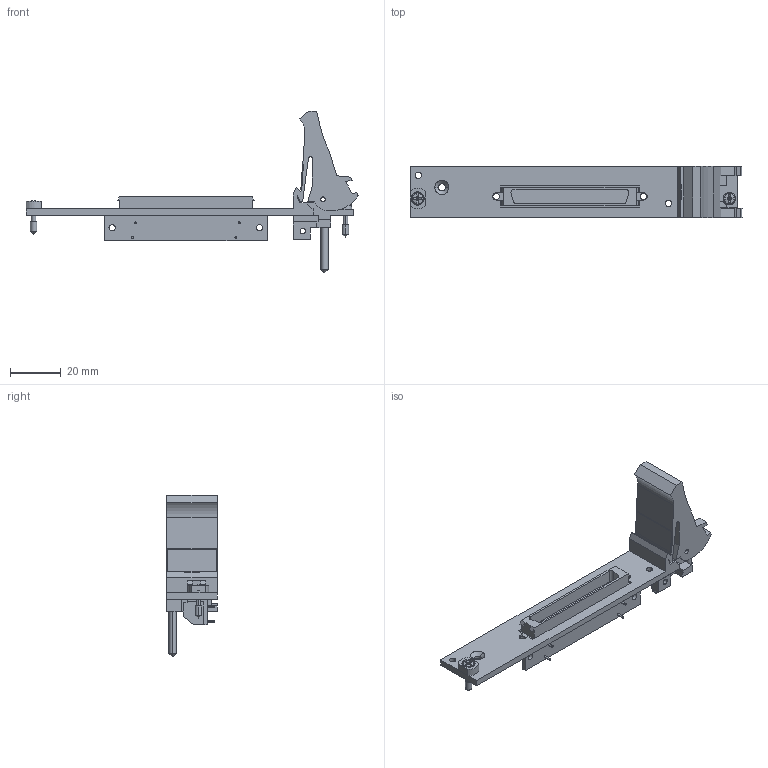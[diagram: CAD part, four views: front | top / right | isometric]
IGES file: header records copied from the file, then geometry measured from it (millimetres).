
Start section:  PTC IGES file: cu_pxi-2503.igs
Global section: file name: cu_pxi-2503.igs; native system: Pro/ENGINEER by Parametric Technology Corporation; preprocessor: 2006080; author: jjorden; organization: Unknown; date: 090924.163010; units: inch
Bounding box: 130.44 x 20.02 x 63.53 mm (x, y, z)
Surface area: 14734.1 mm2 (no closed solid volume)
Topology: 0 solids, 0 shells, 329 faces, 1802 edges, 1798 vertices
Faces by surface type: bspline 232, revolution 97
